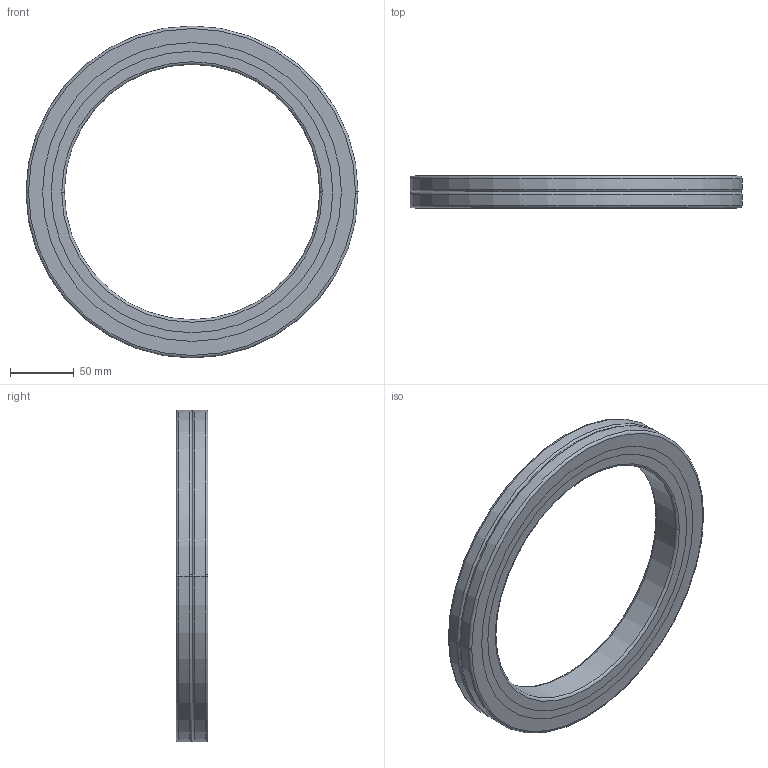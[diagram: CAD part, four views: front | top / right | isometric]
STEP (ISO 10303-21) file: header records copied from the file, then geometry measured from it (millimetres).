
FILE_DESCRIPTION(('no description'),'unknown implementation level');
FILE_NAME('CRBA20025_39.stp',' ',('HIWIN GmbH'),('CADClick - KiM GmbH - www.kimweb.de'),'unknown preprocess','ACIS','unknown authorization');
FILE_SCHEMA(('automotive_design'));
Length unit declared in the file: millimetre
Products named in the file (5): CRBA20025_1; CRBA20025_2; CRBA20025_3; CRBA20025_4; CRBA20025
Bounding box: 260 x 25 x 260 mm (x, y, z)
Volume: 440973.5 mm3; surface area: 148304.2 mm2
Topology: 5 solids, 5 shells, 54 faces, 120 edges, 76 vertices
Faces by surface type: torus 24, cylinder 20, plane 10
Entity records: 3096 total; most frequent: DIRECTION 338, STYLED_ITEM 255, PRESENTATION_STYLE_ASSIGNMENT 255, CARTESIAN_POINT 255, COLOUR_RGB 255, ORIENTED_EDGE 240, AXIS2_PLACEMENT_3D 159, EDGE_CURVE 120
